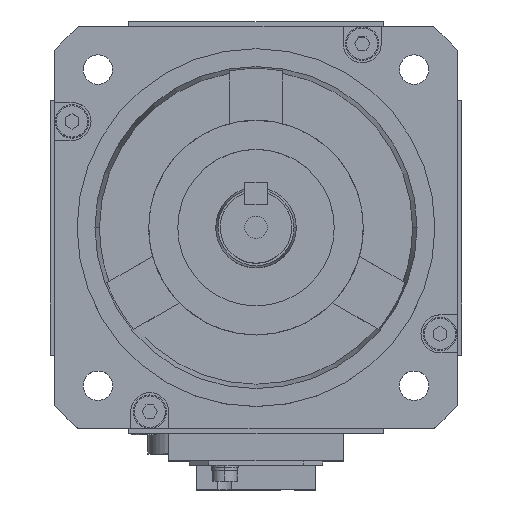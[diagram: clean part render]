
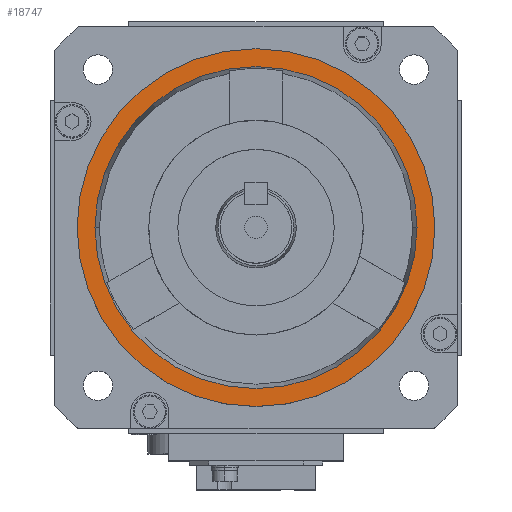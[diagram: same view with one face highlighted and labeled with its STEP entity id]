
A CAD part, top view. The second image highlights one B-rep face of the part: STEP entity #18747.
In plain terms, the highlighted planar face has unit normal (0, 0, 1).
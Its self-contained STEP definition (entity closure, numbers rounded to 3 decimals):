
#6591 = DIRECTION ( 'NONE',  ( 1., 0., 0. ) ) ;
#6592 = DIRECTION ( 'NONE',  ( 0., 0., 1. ) ) ;
#6593 = CARTESIAN_POINT ( 'NONE',  ( 0., 0., 5. ) ) ;
#6594 = AXIS2_PLACEMENT_3D ( 'NONE', #6593, #6592, #6591 ) ;
#6595 = CIRCLE ( 'NONE', #6594, 40. ) ;
#7618 = CARTESIAN_POINT ( 'NONE',  ( -40., 0., 5. ) ) ;
#7710 = CARTESIAN_POINT ( 'NONE',  ( 40., 0., 5. ) ) ;
#7732 = DIRECTION ( 'NONE',  ( 1., 0., 0. ) ) ;
#7733 = DIRECTION ( 'NONE',  ( 0., 0., 1. ) ) ;
#7734 = CARTESIAN_POINT ( 'NONE',  ( 0., 0., 5. ) ) ;
#7735 = AXIS2_PLACEMENT_3D ( 'NONE', #7734, #7733, #7732 ) ;
#7736 = CIRCLE ( 'NONE', #7735, 40. ) ;
#9792 = CARTESIAN_POINT ( 'NONE',  ( 36., 0., 5. ) ) ;
#9798 = DIRECTION ( 'NONE',  ( 1., 0., 0. ) ) ;
#9799 = DIRECTION ( 'NONE',  ( 0., 0., 1. ) ) ;
#9800 = CARTESIAN_POINT ( 'NONE',  ( 0., 0., 5. ) ) ;
#9801 = AXIS2_PLACEMENT_3D ( 'NONE', #9800, #9799, #9798 ) ;
#9802 = CIRCLE ( 'NONE', #9801, 36. ) ;
#9842 = CARTESIAN_POINT ( 'NONE',  ( -36., 0., 5. ) ) ;
#12758 = DIRECTION ( 'NONE',  ( 1., 0., 0. ) ) ;
#12759 = DIRECTION ( 'NONE',  ( 0., 0., 1. ) ) ;
#12760 = CARTESIAN_POINT ( 'NONE',  ( 0., 0., 5. ) ) ;
#12761 = AXIS2_PLACEMENT_3D ( 'NONE', #12760, #12759, #12758 ) ;
#12762 = CIRCLE ( 'NONE', #12761, 36. ) ;
#13405 = FACE_BOUND ( 'NONE', #14689, .T. ) ;
#13406 = FACE_OUTER_BOUND ( 'NONE', #18743, .T. ) ;
#13670 = DIRECTION ( 'NONE',  ( 0., 0., 1. ) ) ;
#13690 = CARTESIAN_POINT ( 'NONE',  ( 0., 0., 5. ) ) ;
#13712 = AXIS2_PLACEMENT_3D ( 'NONE', #13690, #13670, #13911 ) ;
#13911 = DIRECTION ( 'NONE',  ( 1., 0., 0. ) ) ;
#14663 = ORIENTED_EDGE ( 'NONE', *, *, #16623, .F. ) ;
#14675 = ORIENTED_EDGE ( 'NONE', *, *, #18351, .F. ) ;
#14678 = ORIENTED_EDGE ( 'NONE', *, *, #14711, .T. ) ;
#14679 = ORIENTED_EDGE ( 'NONE', *, *, #15385, .T. ) ;
#14689 = EDGE_LOOP ( 'NONE', ( #14675, #14663 ) ) ;
#14711 = EDGE_CURVE ( 'NONE', #15348, #15361, #6595, .T. ) ;
#14815 = PLANE ( 'NONE',  #13712 ) ;
#15348 = VERTEX_POINT ( 'NONE', #7618 ) ;
#15361 = VERTEX_POINT ( 'NONE', #7710 ) ;
#15385 = EDGE_CURVE ( 'NONE', #15361, #15348, #7736, .T. ) ;
#16623 = EDGE_CURVE ( 'NONE', #16651, #16634, #9802, .T. ) ;
#16634 = VERTEX_POINT ( 'NONE', #9792 ) ;
#16651 = VERTEX_POINT ( 'NONE', #9842 ) ;
#18351 = EDGE_CURVE ( 'NONE', #16634, #16651, #12762, .T. ) ;
#18743 = EDGE_LOOP ( 'NONE', ( #14678, #14679 ) ) ;
#18747 = ADVANCED_FACE ( 'NONE', ( #13406, #13405 ), #14815, .T. ) ;
